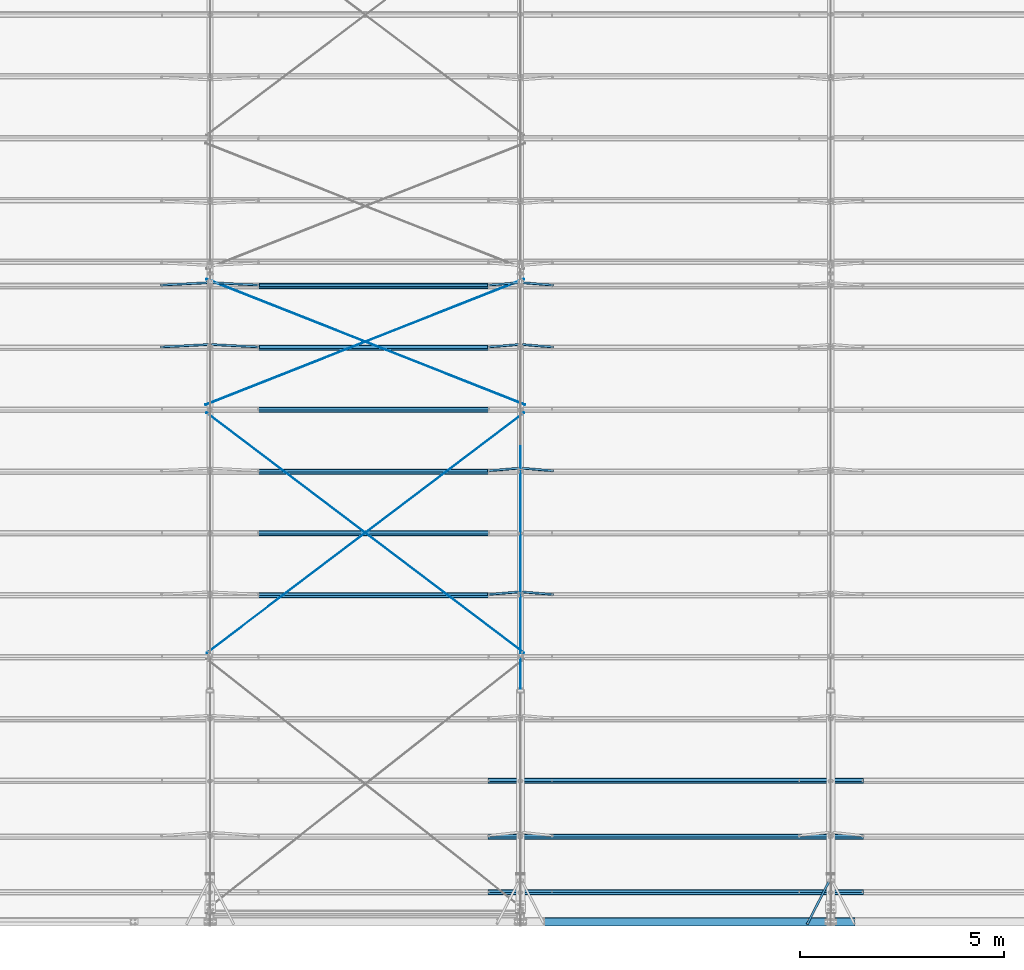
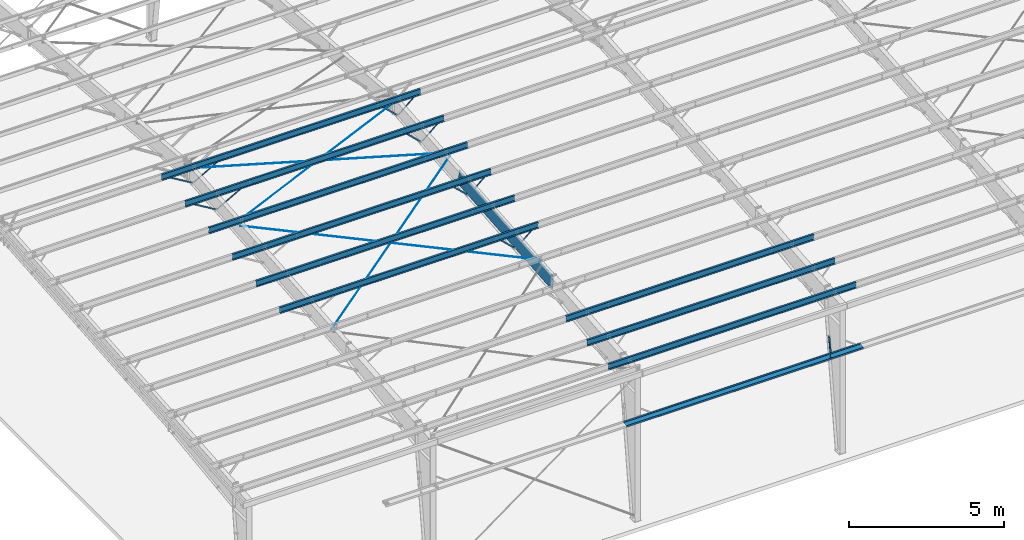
# One storey, part 8 of 185: 16 beams, 12 members, 28 elements without a shape of their own.
"""IFC2X3 building model written with IfcOpenShell, lengths in millimetres."""

from ifc_helpers import new_model, si_unit, frame, origin_with_axes, origin_2d_with_axis, place, context, subcontext, project, spatial, polyline, rectangle, circle, outline, extrude, clip, halfspace, material, type_object, element, aggregate, save


model = new_model("IFC2X3")

# Units and contexts
model_context = context("Model", 3, precision=1e-05, world=origin_with_axes())
body_context = subcontext(model_context, "Body", "Model", "MODEL_VIEW")
ifc_project = project(units=[si_unit("LENGTHUNIT", "METRE", prefix="MILLI"), si_unit("AREAUNIT", "SQUARE_METRE"), si_unit("VOLUMEUNIT", "CUBIC_METRE"), si_unit("MASSUNIT", "GRAM", prefix="KILO"), si_unit("TIMEUNIT", "SECOND"), si_unit("PLANEANGLEUNIT", "RADIAN"), si_unit("SOLIDANGLEUNIT", "STERADIAN"), si_unit("THERMODYNAMICTEMPERATUREUNIT", "DEGREE_CELSIUS"), si_unit("LUMINOUSINTENSITYUNIT", "LUMEN")], contexts=[model_context])

# Site, building, storey
site_placement = place(None, origin_with_axes())
site = spatial("IfcSite", under=ifc_project, at=site_placement, Name="Undefined", CompositionType="ELEMENT")
building_placement = place(site_placement, origin_with_axes())
building = spatial("IfcBuilding", under=site, at=building_placement, Name="Undefined", CompositionType="ELEMENT")
storey_placement = place(building_placement, origin_with_axes())
storey = spatial("IfcBuildingStorey", under=building, at=storey_placement, Name="Undefined", CompositionType="ELEMENT", Elevation=0.0)

# Assembly, beam
assembly_1_placement = place(storey_placement, origin_with_axes())
assembly_1 = element("IfcElementAssembly", 1, at=assembly_1_placement, inside=storey, Name="Steel Assembly", AssemblyPlace="NOTDEFINED", PredefinedType="RIGID_FRAME")
ifc_material = material(Name="STEEL/55")
beam_type_1 = type_object("IfcBeamType", Name="8Z15", PredefinedType="NOTDEFINED")
beam_1_placement = place(assembly_1_placement, frame((14859.0, 823.080489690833, 6062.63787351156), z_axis=(0.0, 0.0830454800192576, -0.996545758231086), x_axis=(1.0, 0.0, 0.0)))
beam_1 = element("IfcBeam", 2, at=beam_1_placement, type_object=beam_type_1, material=ifc_material, Name="Purlin", ObjectType="8Z15", context=body_context, shape_type="Clipping", body=[
    clip(clip(extrude(outline(polyline([(-75.75, 87.0100021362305), (-63.5, 101.599998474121), (1.5900000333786, 101.599998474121), (1.5900000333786, -98.4199981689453), (62.0200004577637, -98.4199981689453), (73.3099975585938, -84.9700012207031), (75.7399978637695, -87.0100021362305), (63.5, -101.599998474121), (-1.5900000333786, -101.599998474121), (-1.5900000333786, 98.4199981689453), (-62.0200004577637, 98.4199981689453), (-73.3099975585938, 84.9700012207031), (-75.75, 87.0100021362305)])), frame((8420.1, 0.0, 0.0), z_axis=(-1.0, 0.0, 0.0), x_axis=(0.0, -1.0, 0.0)), (0.0, 0.0, 1.0), 9220.2), halfspace(frame((8420.1, 2.91402102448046e-09, -101.600000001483), z_axis=(-1.0, 0.0, 0.0), x_axis=(0.0, 0.0, 1.0)), True)), halfspace(frame((-800.1, 2.91402102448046e-09, -101.600000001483), z_axis=(-1.0, 0.0, 0.0), x_axis=(0.0, 0.0, 1.0)), False)),
])
aggregate(assembly_1, [beam_1])

assembly_2_placement = place(storey_placement, origin_with_axes())
assembly_2 = element("IfcElementAssembly", 3, at=assembly_2_placement, inside=storey, Name="Steel Assembly", AssemblyPlace="NOTDEFINED", PredefinedType="RIGID_FRAME")
beam_2_placement = place(assembly_2_placement, frame((14859.0, 2189.94265168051, 6176.54305390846), z_axis=(0.0, 0.0830454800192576, -0.996545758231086), x_axis=(1.0, 0.0, 0.0)))
beam_2 = element("IfcBeam", 4, at=beam_2_placement, type_object=beam_type_1, material=ifc_material, Name="Purlin", ObjectType="8Z15", context=body_context, shape_type="Clipping", body=[
    clip(clip(extrude(outline(polyline([(-75.75, 87.0100021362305), (-63.5, 101.599998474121), (1.5900000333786, 101.599998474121), (1.5900000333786, -98.4199981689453), (62.0200004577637, -98.4199981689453), (73.3099975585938, -84.9700012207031), (75.7399978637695, -87.0100021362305), (63.5, -101.599998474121), (-1.5900000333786, -101.599998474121), (-1.5900000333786, 98.4199981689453), (-62.0200004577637, 98.4199981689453), (-73.3099975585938, 84.9700012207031), (-75.75, 87.0100021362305)])), frame((8420.1, 0.0, 0.0), z_axis=(-1.0, 0.0, 0.0), x_axis=(0.0, -1.0, 0.0)), (0.0, 0.0, 1.0), 9220.2), halfspace(frame((8420.1, 2.91402102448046e-09, -101.600000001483), z_axis=(-1.0, 0.0, 0.0), x_axis=(0.0, 0.0, 1.0)), True)), halfspace(frame((-800.1, 2.91402102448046e-09, -101.600000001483), z_axis=(-1.0, 0.0, 0.0), x_axis=(0.0, 0.0, 1.0)), False)),
])
aggregate(assembly_2, [beam_2])

assembly_3_placement = place(storey_placement, origin_with_axes())
assembly_3 = element("IfcElementAssembly", 5, at=assembly_3_placement, inside=storey, Name="Steel Assembly", AssemblyPlace="NOTDEFINED", PredefinedType="RIGID_FRAME")
beam_3_placement = place(assembly_3_placement, frame((14859.0, 3556.8048136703, 6290.44823430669), z_axis=(0.0, 0.0830454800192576, -0.996545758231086), x_axis=(1.0, 0.0, 0.0)))
beam_3 = element("IfcBeam", 6, at=beam_3_placement, type_object=beam_type_1, material=ifc_material, Name="Purlin", ObjectType="8Z15", context=body_context, shape_type="Clipping", body=[
    clip(clip(extrude(outline(polyline([(-75.75, 87.0100021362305), (-63.5, 101.599998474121), (1.5900000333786, 101.599998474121), (1.5900000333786, -98.4199981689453), (62.0200004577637, -98.4199981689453), (73.3099975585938, -84.9700012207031), (75.7399978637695, -87.0100021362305), (63.5, -101.599998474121), (-1.5900000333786, -101.599998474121), (-1.5900000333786, 98.4199981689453), (-62.0200004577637, 98.4199981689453), (-73.3099975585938, 84.9700012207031), (-75.75, 87.0100021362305)])), frame((8420.1, 0.0, 0.0), z_axis=(-1.0, 0.0, 0.0), x_axis=(0.0, -1.0, 0.0)), (0.0, 0.0, 1.0), 9220.2), halfspace(frame((8420.1, 2.91402102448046e-09, -101.600000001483), z_axis=(-1.0, 0.0, 0.0), x_axis=(0.0, 0.0, 1.0)), True)), halfspace(frame((-800.1, 2.91402102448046e-09, -101.600000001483), z_axis=(-1.0, 0.0, 0.0), x_axis=(0.0, 0.0, 1.0)), False)),
])
aggregate(assembly_3, [beam_3])

assembly_4_placement = place(storey_placement, origin_with_axes())
assembly_4 = element("IfcElementAssembly", 7, at=assembly_4_placement, inside=storey, Name="Steel Assembly", AssemblyPlace="NOTDEFINED", PredefinedType="RIGID_FRAME")
beam_4_placement = place(assembly_4_placement, frame((7239.0, 8113.01202030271, 6670.13216896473), z_axis=(0.0, 0.0830454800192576, -0.996545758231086), x_axis=(1.0, 0.0, 0.0)))
beam_4 = element("IfcBeam", 8, at=beam_4_placement, type_object=beam_type_1, material=ifc_material, Name="Purlin", ObjectType="8Z15", context=body_context, shape_type="Clipping", body=[
    clip(clip(extrude(outline(polyline([(-75.75, 87.0100021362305), (-63.5, 101.599998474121), (1.5900000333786, 101.599998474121), (1.5900000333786, -98.4199981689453), (62.0200004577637, -98.4199981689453), (73.3099975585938, -84.9700012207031), (75.7399978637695, -87.0100021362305), (63.5, -101.599998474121), (-1.5900000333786, -101.599998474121), (-1.5900000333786, 98.4199981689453), (-62.0200004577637, 98.4199981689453), (-73.3099975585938, 84.9700012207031), (-75.75, 87.0100021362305)])), frame((8420.1, 0.0, 0.0), z_axis=(-1.0, 0.0, 0.0), x_axis=(0.0, -1.0, 0.0)), (0.0, 0.0, 1.0), 9626.6), halfspace(frame((8420.1, 2.91402102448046e-09, -101.600000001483), z_axis=(-1.0, 0.0, 0.0), x_axis=(0.0, 0.0, 1.0)), True)), halfspace(frame((-1206.5, 2.91402102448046e-09, -101.600000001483), z_axis=(-1.0, 0.0, 0.0), x_axis=(0.0, 0.0, 1.0)), False)),
])
aggregate(assembly_4, [beam_4])

assembly_5_placement = place(storey_placement, origin_with_axes())
assembly_5 = element("IfcElementAssembly", 9, at=assembly_5_placement, inside=storey, Name="Steel Assembly", AssemblyPlace="NOTDEFINED", PredefinedType="RIGID_FRAME")
beam_5_placement = place(assembly_5_placement, frame((7239.0, 9631.74775584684, 6796.69348051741), z_axis=(0.0, 0.0830454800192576, -0.996545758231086), x_axis=(1.0, 0.0, 0.0)))
beam_5 = element("IfcBeam", 10, at=beam_5_placement, type_object=beam_type_1, material=ifc_material, Name="Purlin", ObjectType="8Z15", context=body_context, shape_type="Clipping", body=[
    clip(clip(extrude(outline(polyline([(-75.75, 87.0100021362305), (-63.5, 101.599998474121), (1.5900000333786, 101.599998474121), (1.5900000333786, -98.4199981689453), (62.0200004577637, -98.4199981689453), (73.3099975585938, -84.9700012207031), (75.7399978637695, -87.0100021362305), (63.5, -101.599998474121), (-1.5900000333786, -101.599998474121), (-1.5900000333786, 98.4199981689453), (-62.0200004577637, 98.4199981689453), (-73.3099975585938, 84.9700012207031), (-75.75, 87.0100021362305)])), frame((8420.1, 0.0, 0.0), z_axis=(-1.0, 0.0, 0.0), x_axis=(0.0, -1.0, 0.0)), (0.0, 0.0, 1.0), 9626.6), halfspace(frame((8420.1, 2.91402102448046e-09, -101.600000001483), z_axis=(-1.0, 0.0, 0.0), x_axis=(0.0, 0.0, 1.0)), True)), halfspace(frame((-1206.5, 2.91402102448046e-09, -101.600000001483), z_axis=(-1.0, 0.0, 0.0), x_axis=(0.0, 0.0, 1.0)), False)),
])
aggregate(assembly_5, [beam_5])

assembly_6_placement = place(storey_placement, origin_with_axes())
assembly_6 = element("IfcElementAssembly", 11, at=assembly_6_placement, inside=storey, Name="Steel Assembly", AssemblyPlace="NOTDEFINED", PredefinedType="RIGID_FRAME")
beam_6_placement = place(assembly_6_placement, frame((7239.0, 11150.483491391, 6923.2547920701), z_axis=(0.0, 0.0830454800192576, -0.996545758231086), x_axis=(1.0, 0.0, 0.0)))
beam_6 = element("IfcBeam", 12, at=beam_6_placement, type_object=beam_type_1, material=ifc_material, Name="Purlin", ObjectType="8Z15", context=body_context, shape_type="Clipping", body=[
    clip(clip(extrude(outline(polyline([(-75.75, 87.0100021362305), (-63.5, 101.599998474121), (1.5900000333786, 101.599998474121), (1.5900000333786, -98.4199981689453), (62.0200004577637, -98.4199981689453), (73.3099975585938, -84.9700012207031), (75.7399978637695, -87.0100021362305), (63.5, -101.599998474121), (-1.5900000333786, -101.599998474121), (-1.5900000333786, 98.4199981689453), (-62.0200004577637, 98.4199981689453), (-73.3099975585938, 84.9700012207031), (-75.75, 87.0100021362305)])), frame((8420.1, 0.0, 0.0), z_axis=(-1.0, 0.0, 0.0), x_axis=(0.0, -1.0, 0.0)), (0.0, 0.0, 1.0), 9626.6), halfspace(frame((8420.1, 2.91402102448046e-09, -101.600000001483), z_axis=(-1.0, 0.0, 0.0), x_axis=(0.0, 0.0, 1.0)), True)), halfspace(frame((-1206.5, 2.91402102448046e-09, -101.600000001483), z_axis=(-1.0, 0.0, 0.0), x_axis=(0.0, 0.0, 1.0)), False)),
])
aggregate(assembly_6, [beam_6])

assembly_7_placement = place(storey_placement, origin_with_axes())
assembly_7 = element("IfcElementAssembly", 13, at=assembly_7_placement, inside=storey, Name="Steel Assembly", AssemblyPlace="NOTDEFINED", PredefinedType="RIGID_FRAME")
beam_7_placement = place(assembly_7_placement, frame((7239.0, 12669.2192269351, 7049.81610362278), z_axis=(0.0, 0.0830454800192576, -0.996545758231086), x_axis=(1.0, 0.0, 0.0)))
beam_7 = element("IfcBeam", 14, at=beam_7_placement, type_object=beam_type_1, material=ifc_material, Name="Purlin", ObjectType="8Z15", context=body_context, shape_type="Clipping", body=[
    clip(clip(extrude(outline(polyline([(-75.75, 87.0100021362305), (-63.5, 101.599998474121), (1.5900000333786, 101.599998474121), (1.5900000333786, -98.4199981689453), (62.0200004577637, -98.4199981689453), (73.3099975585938, -84.9700012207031), (75.7399978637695, -87.0100021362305), (63.5, -101.599998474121), (-1.5900000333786, -101.599998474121), (-1.5900000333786, 98.4199981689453), (-62.0200004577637, 98.4199981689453), (-73.3099975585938, 84.9700012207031), (-75.75, 87.0100021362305)])), frame((8420.1, 0.0, 0.0), z_axis=(-1.0, 0.0, 0.0), x_axis=(0.0, -1.0, 0.0)), (0.0, 0.0, 1.0), 9626.6), halfspace(frame((8420.1, 2.91402102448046e-09, -101.600000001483), z_axis=(-1.0, 0.0, 0.0), x_axis=(0.0, 0.0, 1.0)), True)), halfspace(frame((-1206.5, 2.91402102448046e-09, -101.600000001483), z_axis=(-1.0, 0.0, 0.0), x_axis=(0.0, 0.0, 1.0)), False)),
])
aggregate(assembly_7, [beam_7])

assembly_8_placement = place(storey_placement, origin_with_axes())
assembly_8 = element("IfcElementAssembly", 15, at=assembly_8_placement, inside=storey, Name="Steel Assembly", AssemblyPlace="NOTDEFINED", PredefinedType="RIGID_FRAME")
beam_8_placement = place(assembly_8_placement, frame((7239.0, 14187.9549624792, 7176.37741517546), z_axis=(0.0, 0.0830454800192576, -0.996545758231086), x_axis=(1.0, 0.0, 0.0)))
beam_8 = element("IfcBeam", 16, at=beam_8_placement, type_object=beam_type_1, material=ifc_material, Name="Purlin", ObjectType="8Z15", context=body_context, shape_type="Clipping", body=[
    clip(clip(extrude(outline(polyline([(-75.75, 87.0100021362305), (-63.5, 101.599998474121), (1.5900000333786, 101.599998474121), (1.5900000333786, -98.4199981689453), (62.0200004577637, -98.4199981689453), (73.3099975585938, -84.9700012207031), (75.7399978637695, -87.0100021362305), (63.5, -101.599998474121), (-1.5900000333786, -101.599998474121), (-1.5900000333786, 98.4199981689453), (-62.0200004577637, 98.4199981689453), (-73.3099975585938, 84.9700012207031), (-75.75, 87.0100021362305)])), frame((8420.1, 0.0, 0.0), z_axis=(-1.0, 0.0, 0.0), x_axis=(0.0, -1.0, 0.0)), (0.0, 0.0, 1.0), 9626.6), halfspace(frame((8420.1, 2.91402102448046e-09, -101.600000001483), z_axis=(-1.0, 0.0, 0.0), x_axis=(0.0, 0.0, 1.0)), True)), halfspace(frame((-1206.5, 2.91402102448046e-09, -101.600000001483), z_axis=(-1.0, 0.0, 0.0), x_axis=(0.0, 0.0, 1.0)), False)),
])
aggregate(assembly_8, [beam_8])

assembly_9_placement = place(storey_placement, origin_with_axes())
assembly_9 = element("IfcElementAssembly", 17, at=assembly_9_placement, inside=storey, Name="Steel Assembly", AssemblyPlace="NOTDEFINED", PredefinedType="RIGID_FRAME")
beam_9_placement = place(assembly_9_placement, frame((7239.0, 15706.6906980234, 7302.93872672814), z_axis=(0.0, 0.0830454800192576, -0.996545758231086), x_axis=(1.0, 0.0, 0.0)))
beam_9 = element("IfcBeam", 18, at=beam_9_placement, type_object=beam_type_1, material=ifc_material, Name="Purlin", ObjectType="8Z15", context=body_context, shape_type="Clipping", body=[
    clip(clip(extrude(outline(polyline([(-75.75, 87.0100021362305), (-63.5, 101.599998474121), (1.5900000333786, 101.599998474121), (1.5900000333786, -98.4199981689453), (62.0200004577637, -98.4199981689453), (73.3099975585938, -84.9700012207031), (75.7399978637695, -87.0100021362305), (63.5, -101.599998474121), (-1.5900000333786, -101.599998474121), (-1.5900000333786, 98.4199981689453), (-62.0200004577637, 98.4199981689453), (-73.3099975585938, 84.9700012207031), (-75.75, 87.0100021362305)])), frame((8420.1, 0.0, 0.0), z_axis=(-1.0, 0.0, 0.0), x_axis=(0.0, -1.0, 0.0)), (0.0, 0.0, 1.0), 9626.6), halfspace(frame((8420.1, 2.91402102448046e-09, -101.600000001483), z_axis=(-1.0, 0.0, 0.0), x_axis=(0.0, 0.0, 1.0)), True)), halfspace(frame((-1206.5, 2.91402102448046e-09, -101.600000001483), z_axis=(-1.0, 0.0, 0.0), x_axis=(0.0, 0.0, 1.0)), False)),
])
aggregate(assembly_9, [beam_9])

assembly_10_placement = place(storey_placement, origin_with_axes())
assembly_10 = element("IfcElementAssembly", 19, at=assembly_10_placement, inside=storey, Name="Steel Assembly", AssemblyPlace="NOTDEFINED", PredefinedType="RIGID_FRAME")
beam_type_2 = type_object("IfcBeamType", Name="FB-", PredefinedType="NOTDEFINED")
beam_10_placement = place(assembly_10_placement, frame((22421.1290964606, 1116.84173202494, 4165.16497512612), z_axis=(0.0, 0.0, -1.0), x_axis=(-0.45556863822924, -0.890200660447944, 0.0)))
beam_10 = element("IfcBeam", 20, at=beam_10_placement, type_object=beam_type_2, material=ifc_material, Name="2X2 FLANGE BRACE X 60", ObjectType="FB-", context=body_context, shape_type="SweptSolid", body=[
    extrude(outline(polyline([(1.5900000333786, 1.59000003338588), (50.7999992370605, 1.59000003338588), (50.7999992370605, 7.27595761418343e-12), (0.0, 0.0), (0.0, 50.7999992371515), (1.5900000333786, 50.7999992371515), (1.5900000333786, 1.59000003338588)])), frame((1202.47881570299, 0.0, 0.0), z_axis=(-1.0, 0.0, 0.0), x_axis=(0.0, -1.0, 0.0)), (0.0, 0.0, 1.0), 1202.5),
])
aggregate(assembly_10, [beam_10])

assembly_11_placement = place(storey_placement, origin_with_axes())
assembly_11 = element("IfcElementAssembly", 21, at=assembly_11_placement, inside=storey, Name="Steel Assembly", AssemblyPlace="NOTDEFINED", PredefinedType="RIGID_FRAME")
beam_type_3 = type_object("IfcBeamType", Name="8Z16", PredefinedType="NOTDEFINED")
beam_11_placement = place(assembly_11_placement, frame((22479.0, 101.6, 4165.6), z_axis=(0.0, 1.0, 0.0), x_axis=(-1.0, 0.0, 0.0)))
beam_11 = element("IfcBeam", 22, at=beam_11_placement, type_object=beam_type_3, material=ifc_material, Name="Girt", ObjectType="8Z16", context=body_context, shape_type="Clipping", body=[
    clip(clip(extrude(outline(polyline([(73.3099975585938, -84.9700012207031), (75.7399978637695, -87.0100021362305), (63.5, -101.599998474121), (-1.5900000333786, -101.599998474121), (-1.5900000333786, 98.4199981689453), (-62.0200004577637, 98.4199981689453), (-73.3099975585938, 84.9700012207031), (-75.75, 87.0100021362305), (-63.5, 101.599998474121), (1.5900000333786, 101.599998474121), (1.5900000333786, -98.4199981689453), (62.0200004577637, -98.4199981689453), (73.3099975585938, -84.9700012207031)])), frame((8216.9, 0.0, 0.0), z_axis=(-1.0, 0.0, 0.0), x_axis=(0.0, -1.0, 0.0)), (0.0, 0.0, 1.0), 8813.8), halfspace(frame((8216.9, 0.0, -101.6), z_axis=(-1.0, 0.0, 0.0), x_axis=(0.0, -1.0, 0.0)), True)), halfspace(frame((-596.900000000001, 0.0, -101.6), z_axis=(-1.0, 0.0, 0.0), x_axis=(0.0, -1.0, 0.0)), False)),
])
aggregate(assembly_11, [beam_11])

# Assembly, member
assembly_12_placement = place(storey_placement, origin_with_axes())
assembly_12 = element("IfcElementAssembly", 23, at=assembly_12_placement, inside=storey, Name="Steel Assembly", AssemblyPlace="NOTDEFINED", PredefinedType="RIGID_FRAME")
member_type = type_object("IfcMemberType", Name="FB-", PredefinedType="NOTDEFINED")
member_1_placement = place(assembly_12_placement, frame((14813.3142891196, 8170.70729561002, 5977.78886512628), z_axis=(0.697745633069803, -0.0594892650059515, 0.713871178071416), x_axis=(-0.716345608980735, -0.0579446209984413, 0.6953354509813)))
member_1 = element("IfcMember", 24, at=member_1_placement, type_object=member_type, material=ifc_material, Name="2X2 FLANGE BRACE X 48", ObjectType="FB-", context=body_context, shape_type="SweptSolid", body=[
    extrude(outline(polyline([(1.5900000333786, 1.59000003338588), (50.7999992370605, 1.59000003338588), (50.7999992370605, 7.27595761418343e-12), (0.0, 0.0), (0.0, 50.7999992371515), (1.5900000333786, 50.7999992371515), (1.5900000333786, 1.59000003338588)])), frame((1067.82563693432, 1.82639893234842e-12, 1.75971317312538e-12), z_axis=(-1.0, 0.0, 0.0), x_axis=(0.0, -1.0, 0.0)), (0.0, 0.0, 1.0), 1067.8),
])
aggregate(assembly_12, [member_1])

assembly_13_placement = place(storey_placement, origin_with_axes())
assembly_13 = element("IfcElementAssembly", 25, at=assembly_13_placement, inside=storey, Name="Steel Assembly", AssemblyPlace="NOTDEFINED", PredefinedType="RIGID_FRAME")
member_2_placement = place(assembly_13_placement, frame((14813.314289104, 15764.3859734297, 6610.59542162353), z_axis=(0.697745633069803, -0.0594892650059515, 0.713871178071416), x_axis=(-0.716345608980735, -0.0579446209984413, 0.6953354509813)))
member_2 = element("IfcMember", 26, at=member_2_placement, type_object=member_type, material=ifc_material, Name="2X2 FLANGE BRACE X 48", ObjectType="FB-", context=body_context, shape_type="SweptSolid", body=[
    extrude(outline(polyline([(1.5900000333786, 1.59000003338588), (50.7999992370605, 1.59000003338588), (50.7999992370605, 7.27595761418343e-12), (0.0, 0.0), (0.0, 50.7999992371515), (1.5900000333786, 50.7999992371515), (1.5900000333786, 1.59000003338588)])), frame((1067.82563693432, 1.82639893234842e-12, 1.75971317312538e-12), z_axis=(-1.0, 0.0, 0.0), x_axis=(0.0, -1.0, 0.0)), (0.0, 0.0, 1.0), 1067.8),
])
aggregate(assembly_13, [member_2])

assembly_14_placement = place(storey_placement, origin_with_axes())
assembly_14 = element("IfcElementAssembly", 27, at=assembly_14_placement, inside=storey, Name="Steel Assembly", AssemblyPlace="NOTDEFINED", PredefinedType="RIGID_FRAME")
member_3_placement = place(assembly_14_placement, frame((7200.91267953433, 15764.3099600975, 6611.5075816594), z_axis=(0.530152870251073, -0.070414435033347, 0.844973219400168), x_axis=(-0.847902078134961, -0.0440268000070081, 0.528321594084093)))
member_3 = element("IfcMember", 28, at=member_3_placement, type_object=member_type, material=ifc_material, Name="2X2 FLANGE BRACE X 48", ObjectType="FB-", context=body_context, shape_type="SweptSolid", body=[
    extrude(outline(polyline([(1.5900000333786, 1.59000003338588), (50.7999992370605, 1.59000003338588), (50.7999992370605, 7.27595761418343e-12), (0.0, 0.0), (0.0, 50.7999992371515), (1.5900000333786, 50.7999992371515), (1.5900000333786, 1.59000003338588)])), frame((1389.32938756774, -1.81898940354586e-12, 7.71232737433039e-14), z_axis=(-1.0, 0.0, 0.0), x_axis=(0.0, -1.0, 0.0)), (0.0, 0.0, 1.0), 1389.3),
])
aggregate(assembly_14, [member_3])

assembly_15_placement = place(storey_placement, origin_with_axes())
assembly_15 = element("IfcElementAssembly", 29, at=assembly_15_placement, inside=storey, Name="Steel Assembly", AssemblyPlace="NOTDEFINED", PredefinedType="RIGID_FRAME")
member_4_placement = place(assembly_15_placement, frame((14813.3142891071, 14245.650237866, 6484.03411032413), z_axis=(0.697745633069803, -0.0594892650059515, 0.713871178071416), x_axis=(-0.716345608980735, -0.0579446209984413, 0.6953354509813)))
member_4 = element("IfcMember", 30, at=member_4_placement, type_object=member_type, material=ifc_material, Name="2X2 FLANGE BRACE X 48", ObjectType="FB-", context=body_context, shape_type="SweptSolid", body=[
    extrude(outline(polyline([(1.5900000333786, 1.59000003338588), (50.7999992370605, 1.59000003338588), (50.7999992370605, 7.27595761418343e-12), (0.0, 0.0), (0.0, 50.7999992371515), (1.5900000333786, 50.7999992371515), (1.5900000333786, 1.59000003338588)])), frame((1067.82563693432, 1.82639893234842e-12, 1.75971317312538e-12), z_axis=(-1.0, 0.0, 0.0), x_axis=(0.0, -1.0, 0.0)), (0.0, 0.0, 1.0), 1067.8),
])
aggregate(assembly_15, [member_4])

assembly_16_placement = place(storey_placement, origin_with_axes())
assembly_16 = element("IfcElementAssembly", 31, at=assembly_16_placement, inside=storey, Name="Steel Assembly", AssemblyPlace="NOTDEFINED", PredefinedType="RIGID_FRAME")
member_5_placement = place(assembly_16_placement, frame((7200.91267953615, 14245.5742245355, 6484.94627035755), z_axis=(0.530152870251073, -0.070414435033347, 0.844973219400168), x_axis=(-0.847902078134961, -0.0440268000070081, 0.528321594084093)))
member_5 = element("IfcMember", 32, at=member_5_placement, type_object=member_type, material=ifc_material, Name="2X2 FLANGE BRACE X 48", ObjectType="FB-", context=body_context, shape_type="SweptSolid", body=[
    extrude(outline(polyline([(1.5900000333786, 1.59000003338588), (50.7999992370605, 1.59000003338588), (50.7999992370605, 7.27595761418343e-12), (0.0, 0.0), (0.0, 50.7999992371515), (1.5900000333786, 50.7999992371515), (1.5900000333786, 1.59000003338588)])), frame((1389.32938756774, -1.81898940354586e-12, 7.71232737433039e-14), z_axis=(-1.0, 0.0, 0.0), x_axis=(0.0, -1.0, 0.0)), (0.0, 0.0, 1.0), 1389.3),
])
aggregate(assembly_16, [member_5])

assembly_17_placement = place(storey_placement, origin_with_axes())
assembly_17 = element("IfcElementAssembly", 33, at=assembly_17_placement, inside=storey, Name="Steel Assembly", AssemblyPlace="NOTDEFINED", PredefinedType="RIGID_FRAME")
member_6_placement = place(assembly_17_placement, frame((14813.3142891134, 11208.1787667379, 6230.91148772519), z_axis=(0.697745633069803, -0.0594892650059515, 0.713871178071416), x_axis=(-0.716345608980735, -0.0579446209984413, 0.6953354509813)))
member_6 = element("IfcMember", 34, at=member_6_placement, type_object=member_type, material=ifc_material, Name="2X2 FLANGE BRACE X 48", ObjectType="FB-", context=body_context, shape_type="SweptSolid", body=[
    extrude(outline(polyline([(1.5900000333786, 1.59000003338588), (50.7999992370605, 1.59000003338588), (50.7999992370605, 7.27595761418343e-12), (0.0, 0.0), (0.0, 50.7999992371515), (1.5900000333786, 50.7999992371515), (1.5900000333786, 1.59000003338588)])), frame((1067.82563693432, 1.82639893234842e-12, 1.75971317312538e-12), z_axis=(-1.0, 0.0, 0.0), x_axis=(0.0, -1.0, 0.0)), (0.0, 0.0, 1.0), 1067.8),
])
aggregate(assembly_17, [member_6])

assembly_18_placement = place(storey_placement, origin_with_axes())
assembly_18 = element("IfcElementAssembly", 35, at=assembly_18_placement, inside=storey, Name="Steel Assembly", AssemblyPlace="NOTDEFINED", PredefinedType="RIGID_FRAME")
member_7_placement = place(assembly_18_placement, frame((7277.08732047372, 15764.3099601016, 6611.50758165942), z_axis=(0.0, 0.996545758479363, 0.0830454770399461), x_axis=(0.847902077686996, -0.044026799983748, 0.528321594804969)))
member_7 = element("IfcMember", 36, at=member_7_placement, type_object=member_type, material=ifc_material, Name="2X2 FLANGE BRACE X 48", ObjectType="FB-", context=body_context, shape_type="SweptSolid", body=[
    extrude(outline(polyline([(1.5900000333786, 1.59000003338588), (50.7999992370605, 1.59000003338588), (50.7999992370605, 7.27595761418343e-12), (0.0, 0.0), (0.0, 50.7999992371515), (1.5900000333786, 50.7999992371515), (1.5900000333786, 1.59000003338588)])), frame((1389.32938756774, -1.81898940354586e-12, 7.71232737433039e-14), z_axis=(-1.0, 0.0, 0.0), x_axis=(0.0, -1.0, 0.0)), (0.0, 0.0, 1.0), 1389.3),
])
aggregate(assembly_18, [member_7])

assembly_19_placement = place(storey_placement, origin_with_axes())
assembly_19 = element("IfcElementAssembly", 37, at=assembly_19_placement, inside=storey, Name="Steel Assembly", AssemblyPlace="NOTDEFINED", PredefinedType="RIGID_FRAME")
member_8_placement = place(assembly_19_placement, frame((7277.08732047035, 14245.5742245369, 6484.94627035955), z_axis=(0.0, 0.996545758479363, 0.0830454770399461), x_axis=(0.847902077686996, -0.044026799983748, 0.528321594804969)))
member_8 = element("IfcMember", 38, at=member_8_placement, type_object=member_type, material=ifc_material, Name="2X2 FLANGE BRACE X 48", ObjectType="FB-", context=body_context, shape_type="SweptSolid", body=[
    extrude(outline(polyline([(1.5900000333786, 1.59000003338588), (50.7999992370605, 1.59000003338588), (50.7999992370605, 7.27595761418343e-12), (0.0, 0.0), (0.0, 50.7999992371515), (1.5900000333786, 50.7999992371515), (1.5900000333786, 1.59000003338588)])), frame((1389.32938756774, -1.81898940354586e-12, 7.71232737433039e-14), z_axis=(-1.0, 0.0, 0.0), x_axis=(0.0, -1.0, 0.0)), (0.0, 0.0, 1.0), 1389.3),
])
aggregate(assembly_19, [member_8])

assembly_20_placement = place(storey_placement, origin_with_axes())
assembly_20 = element("IfcElementAssembly", 39, at=assembly_20_placement, inside=storey, Name="Steel Assembly", AssemblyPlace="NOTDEFINED", PredefinedType="RIGID_FRAME")
member_9_placement = place(assembly_20_placement, frame((14904.685710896, 15764.3859734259, 6610.59542162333), z_axis=(0.0, 0.996545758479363, 0.0830454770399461), x_axis=(0.716345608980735, -0.0579446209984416, 0.695335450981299)))
member_9 = element("IfcMember", 40, at=member_9_placement, type_object=member_type, material=ifc_material, Name="2X2 FLANGE BRACE X 48", ObjectType="FB-", context=body_context, shape_type="SweptSolid", body=[
    extrude(outline(polyline([(1.5900000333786, 1.59000003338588), (50.7999992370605, 1.59000003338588), (50.7999992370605, 7.27595761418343e-12), (0.0, 0.0), (0.0, 50.7999992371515), (1.5900000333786, 50.7999992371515), (1.5900000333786, 1.59000003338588)])), frame((1067.82563693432, 1.82639893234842e-12, 1.75971317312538e-12), z_axis=(-1.0, 0.0, 0.0), x_axis=(0.0, -1.0, 0.0)), (0.0, 0.0, 1.0), 1067.8),
])
aggregate(assembly_20, [member_9])

assembly_21_placement = place(storey_placement, origin_with_axes())
assembly_21 = element("IfcElementAssembly", 41, at=assembly_21_placement, inside=storey, Name="Steel Assembly", AssemblyPlace="NOTDEFINED", PredefinedType="RIGID_FRAME")
member_10_placement = place(assembly_21_placement, frame((14904.6857108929, 14245.6502378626, 6484.03411032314), z_axis=(0.0, 0.996545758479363, 0.0830454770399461), x_axis=(0.716345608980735, -0.0579446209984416, 0.695335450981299)))
member_10 = element("IfcMember", 42, at=member_10_placement, type_object=member_type, material=ifc_material, Name="2X2 FLANGE BRACE X 48", ObjectType="FB-", context=body_context, shape_type="SweptSolid", body=[
    extrude(outline(polyline([(1.5900000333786, 1.59000003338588), (50.7999992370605, 1.59000003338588), (50.7999992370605, 7.27595761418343e-12), (0.0, 0.0), (0.0, 50.7999992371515), (1.5900000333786, 50.7999992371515), (1.5900000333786, 1.59000003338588)])), frame((1067.82563693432, 1.82639893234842e-12, 1.75971317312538e-12), z_axis=(-1.0, 0.0, 0.0), x_axis=(0.0, -1.0, 0.0)), (0.0, 0.0, 1.0), 1067.8),
])
aggregate(assembly_21, [member_10])

assembly_22_placement = place(storey_placement, origin_with_axes())
assembly_22 = element("IfcElementAssembly", 43, at=assembly_22_placement, inside=storey, Name="Steel Assembly", AssemblyPlace="NOTDEFINED", PredefinedType="RIGID_FRAME")
member_11_placement = place(assembly_22_placement, frame((14904.6857108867, 11208.1787667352, 6230.9114877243), z_axis=(0.0, 0.996545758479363, 0.0830454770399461), x_axis=(0.716345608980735, -0.0579446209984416, 0.695335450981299)))
member_11 = element("IfcMember", 44, at=member_11_placement, type_object=member_type, material=ifc_material, Name="2X2 FLANGE BRACE X 48", ObjectType="FB-", context=body_context, shape_type="SweptSolid", body=[
    extrude(outline(polyline([(1.5900000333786, 1.59000003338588), (50.7999992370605, 1.59000003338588), (50.7999992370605, 7.27595761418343e-12), (0.0, 0.0), (0.0, 50.7999992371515), (1.5900000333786, 50.7999992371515), (1.5900000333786, 1.59000003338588)])), frame((1067.82563693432, 1.82639893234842e-12, 1.75971317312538e-12), z_axis=(-1.0, 0.0, 0.0), x_axis=(0.0, -1.0, 0.0)), (0.0, 0.0, 1.0), 1067.8),
])
aggregate(assembly_22, [member_11])

assembly_23_placement = place(storey_placement, origin_with_axes())
assembly_23 = element("IfcElementAssembly", 45, at=assembly_23_placement, inside=storey, Name="Steel Assembly", AssemblyPlace="NOTDEFINED", PredefinedType="RIGID_FRAME")
member_12_placement = place(assembly_23_placement, frame((14904.6857108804, 8170.70729560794, 5977.78886512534), z_axis=(0.0, 0.996545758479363, 0.0830454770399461), x_axis=(0.716345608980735, -0.0579446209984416, 0.695335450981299)))
member_12 = element("IfcMember", 46, at=member_12_placement, type_object=member_type, material=ifc_material, Name="2X2 FLANGE BRACE X 48", ObjectType="FB-", context=body_context, shape_type="SweptSolid", body=[
    extrude(outline(polyline([(1.5900000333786, 1.59000003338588), (50.7999992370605, 1.59000003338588), (50.7999992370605, 7.27595761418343e-12), (0.0, 0.0), (0.0, 50.7999992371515), (1.5900000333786, 50.7999992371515), (1.5900000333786, 1.59000003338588)])), frame((1067.82563693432, 1.82639893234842e-12, 1.75971317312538e-12), z_axis=(-1.0, 0.0, 0.0), x_axis=(0.0, -1.0, 0.0)), (0.0, 0.0, 1.0), 1067.8),
])
aggregate(assembly_23, [member_12])

# Assembly, beam
assembly_24_placement = place(storey_placement, origin_with_axes())
assembly_24 = element("IfcElementAssembly", 47, at=assembly_24_placement, inside=storey, Name="Steel Assembly", AssemblyPlace="NOTDEFINED", PredefinedType="RIGID_FRAME")
beam_type_4 = type_object("IfcBeamType", Name="RB3/4\"", PredefinedType="NOTDEFINED")
beam_12_placement = place(assembly_24_placement, frame((7128.30210827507, 12790.6821353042, 6899.03200659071), z_axis=(-0.0157152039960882, -0.0434243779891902, 0.998933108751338), x_axis=(0.929746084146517, 0.366929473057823, 0.0305774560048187)))
beam_12 = element("IfcBeam", 48, at=beam_12_placement, type_object=beam_type_4, material=ifc_material, Name="ROD BRACE - 3/4", ObjectType="RB3/4\"", context=body_context, shape_type="SweptSolid", body=[
    extrude(circle(Radius=9.525, at=origin_2d_with_axis()), frame((8406.92355992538, -2.11149322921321e-12, 5.83347506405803e-14), z_axis=(-1.0, 0.0, 0.0), x_axis=(0.0, -1.0, 0.0)), (0.0, 0.0, 1.0), 8406.9),
])
aggregate(assembly_24, [beam_12])

assembly_25_placement = place(storey_placement, origin_with_axes())
assembly_25 = element("IfcElementAssembly", 49, at=assembly_25_placement, inside=storey, Name="Steel Assembly", AssemblyPlace="NOTDEFINED", PredefinedType="RIGID_FRAME")
beam_13_placement = place(assembly_25_placement, frame((14969.6978917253, 12790.682135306, 6899.0320065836), z_axis=(0.0158744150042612, -0.0430222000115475, 0.998947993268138), x_axis=(-0.929746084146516, 0.366929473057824, 0.0305774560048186)))
beam_13 = element("IfcBeam", 50, at=beam_13_placement, type_object=beam_type_4, material=ifc_material, Name="ROD BRACE - 3/4", ObjectType="RB3/4\"", context=body_context, shape_type="SweptSolid", body=[
    extrude(circle(Radius=9.525, at=origin_2d_with_axis()), frame((8406.92355992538, -2.11149322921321e-12, 5.83347506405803e-14), z_axis=(-1.0, 0.0, 0.0), x_axis=(0.0, -1.0, 0.0)), (0.0, 0.0, 1.0), 8406.9),
])
aggregate(assembly_25, [beam_13])

assembly_26_placement = place(storey_placement, origin_with_axes())
assembly_26 = element("IfcElementAssembly", 51, at=assembly_26_placement, inside=storey, Name="Steel Assembly", AssemblyPlace="NOTDEFINED", PredefinedType="RIGID_FRAME")
beam_14_placement = place(assembly_26_placement, frame((7158.10992231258, 6698.19712904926, 6391.3249227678), z_axis=(-0.0378644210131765, -0.0332332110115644, 0.998730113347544), x_axis=(0.796162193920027, 0.602993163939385, 0.0502494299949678)))
beam_14 = element("IfcBeam", 52, at=beam_14_placement, type_object=beam_type_4, material=ifc_material, Name="ROD BRACE - 3/4", ObjectType="RB3/4\"", context=body_context, shape_type="SweptSolid", body=[
    extrude(circle(Radius=9.525, at=origin_2d_with_axis()), frame((9778.87663663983, 8.40844943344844e-13, -9.09494701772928e-13), z_axis=(-1.0, 0.0, 0.0), x_axis=(0.0, -1.0, 0.0)), (0.0, 0.0, 1.0), 9778.9),
])
aggregate(assembly_26, [beam_14])

assembly_27_placement = place(storey_placement, origin_with_axes())
assembly_27 = element("IfcElementAssembly", 53, at=assembly_27_placement, inside=storey, Name="Steel Assembly", AssemblyPlace="NOTDEFINED", PredefinedType="RIGID_FRAME")
beam_15_placement = place(assembly_27_placement, frame((14939.8900776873, 6698.19712905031, 6391.32492275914), z_axis=(0.0378627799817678, -0.0332353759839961, 0.998730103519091), x_axis=(-0.796162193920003, 0.602993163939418, 0.0502494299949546)))
beam_15 = element("IfcBeam", 54, at=beam_15_placement, type_object=beam_type_4, material=ifc_material, Name="ROD BRACE - 3/4", ObjectType="RB3/4\"", context=body_context, shape_type="SweptSolid", body=[
    extrude(circle(Radius=9.525, at=origin_2d_with_axis()), frame((9778.87663663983, 8.40844943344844e-13, -9.09494701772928e-13), z_axis=(-1.0, 0.0, 0.0), x_axis=(0.0, -1.0, 0.0)), (0.0, 0.0, 1.0), 9778.9),
])
aggregate(assembly_27, [beam_15])

assembly_28_placement = place(storey_placement, origin_with_axes())
assembly_28 = element("IfcElementAssembly", 55, at=assembly_28_placement, inside=storey, Name="Steel Assembly", AssemblyPlace="NOTDEFINED", PredefinedType="RIGID_FRAME")
beam_type_5 = type_object("IfcBeamType", Name="PL1/8\"X24\"", PredefinedType="NOTDEFINED")
beam_16_placement = place(assembly_28_placement, frame((14859.0, 5773.67992183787, 6059.40140337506), z_axis=(0.0, -0.0830454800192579, 0.996545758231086), x_axis=(0.0, 0.996545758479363, 0.0830454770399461)))
beam_16 = element("IfcBeam", 56, at=beam_16_placement, type_object=beam_type_5, material=ifc_material, Name="Web", ObjectType="PL1/8\"X24\"", context=body_context, shape_type="Clipping", body=[
    clip(extrude(rectangle(XDim=3.4163, YDim=609.59999999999, at=origin_2d_with_axis()), frame((6095.99999991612, 0.0, -8.45989944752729e-14), z_axis=(-1.0, 0.0, 0.0), x_axis=(0.0, -1.0, 0.0)), (0.0, 0.0, 1.0), 6096.0), halfspace(frame((2.96531652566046e-08, 0.0, 304.799999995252), z_axis=(-1.0, 0.0, 0.0), x_axis=(0.0, -1.0, 0.0)), False)),
])
aggregate(assembly_28, [beam_16])

save(model, "model.ifc")
